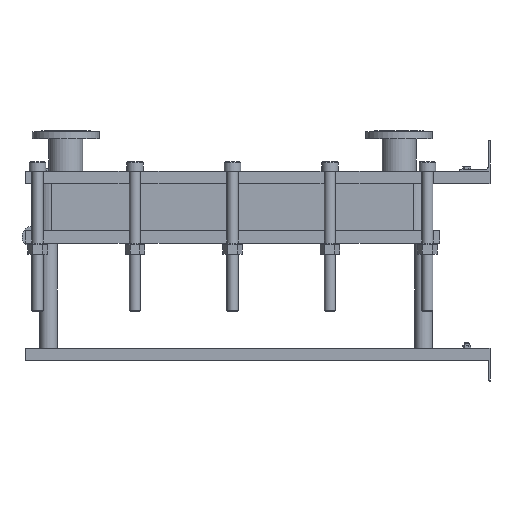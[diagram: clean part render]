
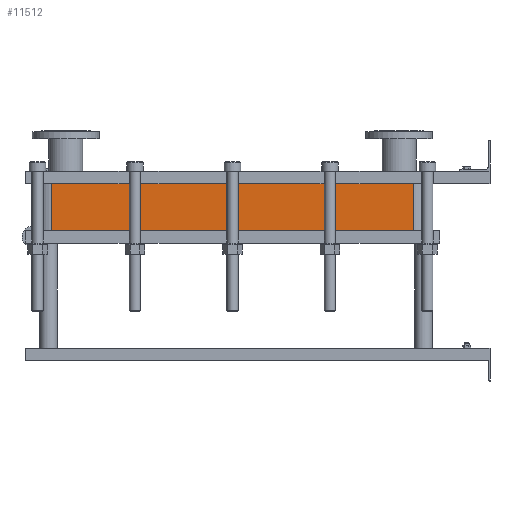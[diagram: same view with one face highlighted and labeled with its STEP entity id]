
A CAD part, left-side view. The second image highlights one B-rep face of the part: STEP entity #11512.
In plain terms, the highlighted planar face has unit normal (-1, 0, 0).
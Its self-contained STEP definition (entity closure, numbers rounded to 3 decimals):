
#1129=LINE('',#23232,#2102);
#1130=LINE('',#23236,#2103);
#1131=LINE('',#23238,#2104);
#1132=LINE('',#23239,#2105);
#2102=VECTOR('',#15887,10.);
#2103=VECTOR('',#15892,10.);
#2104=VECTOR('',#15893,10.);
#2105=VECTOR('',#15894,10.);
#3267=FACE_OUTER_BOUND('',#4093,.T.);
#4093=EDGE_LOOP('',(#10103,#10104,#10105,#10106));
#5642=VERTEX_POINT('',#23229);
#5643=VERTEX_POINT('',#23231);
#5644=VERTEX_POINT('',#23235);
#5645=VERTEX_POINT('',#23237);
#7159=EDGE_CURVE('',#5643,#5642,#1129,.T.);
#7161=EDGE_CURVE('',#5642,#5644,#1130,.T.);
#7162=EDGE_CURVE('',#5645,#5644,#1131,.T.);
#7163=EDGE_CURVE('',#5645,#5643,#1132,.T.);
#10103=ORIENTED_EDGE('',*,*,#7161,.T.);
#10104=ORIENTED_EDGE('',*,*,#7162,.F.);
#10105=ORIENTED_EDGE('',*,*,#7163,.T.);
#10106=ORIENTED_EDGE('',*,*,#7159,.T.);
#10857=PLANE('',#12751);
#11512=ADVANCED_FACE('',(#3267),#10857,.T.);
#12751=AXIS2_PLACEMENT_3D('',#23234,#15890,#15891);
#15887=DIRECTION('',(0.,0.,-1.));
#15890=DIRECTION('center_axis',(-1.,0.,0.));
#15891=DIRECTION('ref_axis',(0.,1.,0.));
#15892=DIRECTION('',(0.,-1.,0.));
#15893=DIRECTION('',(0.,0.,-1.));
#15894=DIRECTION('',(0.,1.,0.));
#23229=CARTESIAN_POINT('',(-200.,1414.,-151.8));
#23231=CARTESIAN_POINT('',(-200.,1414.,0.));
#23232=CARTESIAN_POINT('',(-200.,1414.,0.));
#23234=CARTESIAN_POINT('Origin',(-200.,248.,0.));
#23235=CARTESIAN_POINT('',(-200.,248.,-151.8));
#23236=CARTESIAN_POINT('',(-200.,539.5,-151.8));
#23237=CARTESIAN_POINT('',(-200.,248.,0.));
#23238=CARTESIAN_POINT('',(-200.,248.,0.));
#23239=CARTESIAN_POINT('',(-200.,248.,0.));
